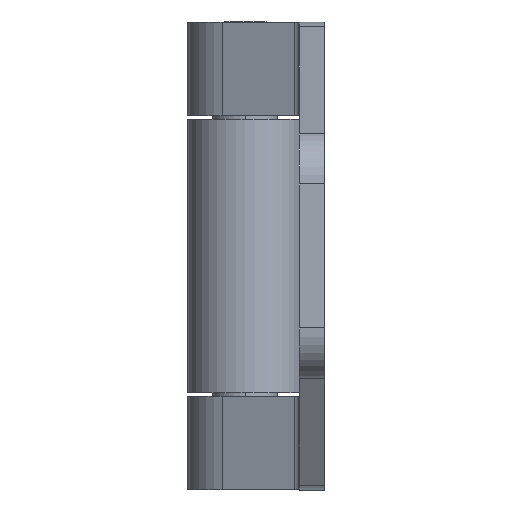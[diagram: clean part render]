
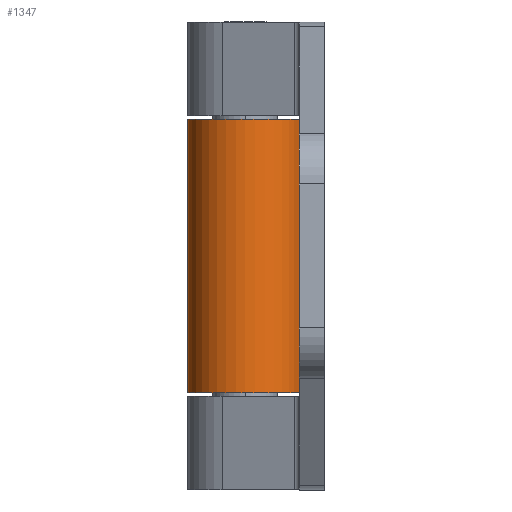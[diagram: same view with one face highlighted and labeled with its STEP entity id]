
A CAD part, left-side view. The second image highlights one B-rep face of the part: STEP entity #1347.
In plain terms, the highlighted cylindrical face has radius 8 mm (diameter 16 mm), a partial arc.
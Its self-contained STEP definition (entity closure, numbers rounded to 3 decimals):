
#106 = CARTESIAN_POINT ( 'NONE',  ( -7.333, 3.199, 19. ) ) ;
#241 = AXIS2_PLACEMENT_3D ( 'NONE', #993, #1020, #1037 ) ;
#311 = VERTEX_POINT ( 'NONE', #1526 ) ;
#487 = CARTESIAN_POINT ( 'NONE',  ( -7.333, 3.199, 32.5 ) ) ;
#556 = CARTESIAN_POINT ( 'NONE',  ( -6.705, -4.365, -19. ) ) ;
#591 = CIRCLE ( 'NONE', #241, 8. ) ;
#632 = AXIS2_PLACEMENT_3D ( 'NONE', #1254, #1266, #1296 ) ;
#637 = EDGE_LOOP ( 'NONE', ( #1812, #2167, #2218, #2273 ) ) ;
#672 = VERTEX_POINT ( 'NONE', #556 ) ;
#754 = VERTEX_POINT ( 'NONE', #106 ) ;
#857 = EDGE_CURVE ( 'NONE', #754, #311, #1031, .T. ) ;
#954 = CYLINDRICAL_SURFACE ( 'NONE', #2291, 8. ) ;
#960 = VERTEX_POINT ( 'NONE', #1825 ) ;
#993 = CARTESIAN_POINT ( 'NONE',  ( 0., 0., -19. ) ) ;
#1010 = FACE_OUTER_BOUND ( 'NONE', #637, .T. ) ;
#1020 = DIRECTION ( 'NONE',  ( 0., 0., 1. ) ) ;
#1022 = EDGE_CURVE ( 'NONE', #960, #672, #1263, .T. ) ;
#1031 = LINE ( 'NONE', #487, #1984 ) ;
#1037 = DIRECTION ( 'NONE',  ( 1., 0., 0. ) ) ;
#1254 = CARTESIAN_POINT ( 'NONE',  ( 0., 0., 19. ) ) ;
#1263 = LINE ( 'NONE', #2194, #2229 ) ;
#1266 = DIRECTION ( 'NONE',  ( 0., 0., -1. ) ) ;
#1296 = DIRECTION ( 'NONE',  ( -1., 0., 0. ) ) ;
#1347 = ADVANCED_FACE ( 'NONE', ( #1010 ), #954, .T. ) ;
#1459 = DIRECTION ( 'NONE',  ( -1., 0., 0. ) ) ;
#1470 = CARTESIAN_POINT ( 'NONE',  ( 0., 0., 32.5 ) ) ;
#1524 = DIRECTION ( 'NONE',  ( 0., 0., -1. ) ) ;
#1526 = CARTESIAN_POINT ( 'NONE',  ( -7.333, 3.199, -19. ) ) ;
#1812 = ORIENTED_EDGE ( 'NONE', *, *, #1022, .T. ) ;
#1825 = CARTESIAN_POINT ( 'NONE',  ( -6.705, -4.365, 19. ) ) ;
#1834 = DIRECTION ( 'NONE',  ( 0., 0., -1. ) ) ;
#1877 = EDGE_CURVE ( 'NONE', #754, #960, #2208, .T. ) ;
#1984 = VECTOR ( 'NONE', #1989, 1000. ) ;
#1989 = DIRECTION ( 'NONE',  ( 0., 0., -1. ) ) ;
#2167 = ORIENTED_EDGE ( 'NONE', *, *, #2302, .T. ) ;
#2194 = CARTESIAN_POINT ( 'NONE',  ( -6.705, -4.365, 32.5 ) ) ;
#2208 = CIRCLE ( 'NONE', #632, 8. ) ;
#2218 = ORIENTED_EDGE ( 'NONE', *, *, #857, .F. ) ;
#2229 = VECTOR ( 'NONE', #1834, 1000. ) ;
#2273 = ORIENTED_EDGE ( 'NONE', *, *, #1877, .T. ) ;
#2291 = AXIS2_PLACEMENT_3D ( 'NONE', #1470, #1524, #1459 ) ;
#2302 = EDGE_CURVE ( 'NONE', #672, #311, #591, .T. ) ;
